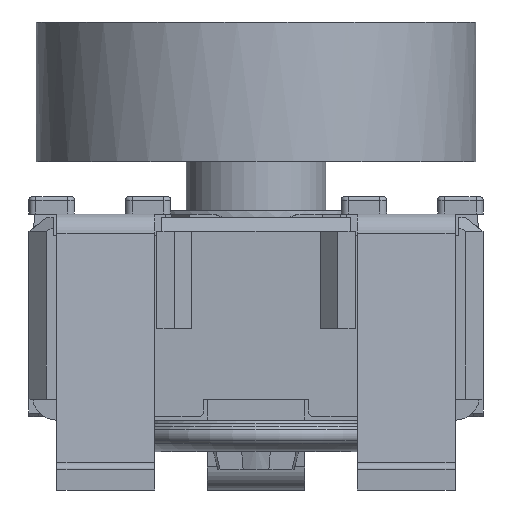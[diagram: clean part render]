
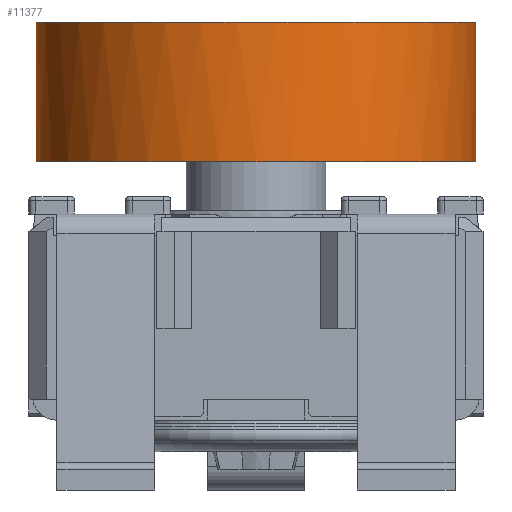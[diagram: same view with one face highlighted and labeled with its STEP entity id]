
A CAD part, front view. The second image highlights one B-rep face of the part: STEP entity #11377.
In plain terms, the highlighted cylindrical face has radius 3.15 mm (diameter 6.3 mm), a partial arc.
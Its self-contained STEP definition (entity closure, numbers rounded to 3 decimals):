
#47=ELLIPSE('',#12343,36.142,3.15);
#48=ELLIPSE('',#12344,36.142,3.15);
#249=CYLINDRICAL_SURFACE('',#12350,3.15);
#710=CIRCLE('',#12280,3.15);
#730=CIRCLE('',#12346,3.15);
#732=CIRCLE('',#12348,3.15);
#733=CIRCLE('',#12351,3.15);
#1320=FACE_OUTER_BOUND('',#1920,.T.);
#1920=EDGE_LOOP('',(#10328,#10329,#10330,#10331,#10332,#10333,#10334,#10335));
#3180=LINE('',#18874,#4437);
#3183=LINE('',#18880,#4440);
#4437=VECTOR('',#15405,10.);
#4440=VECTOR('',#15410,10.);
#5416=VERTEX_POINT('',#18642);
#5417=VERTEX_POINT('',#18643);
#5474=VERTEX_POINT('',#18857);
#5475=VERTEX_POINT('',#18859);
#5476=VERTEX_POINT('',#18863);
#5479=VERTEX_POINT('',#18869);
#5480=VERTEX_POINT('',#18873);
#5482=VERTEX_POINT('',#18879);
#6994=EDGE_CURVE('',#5416,#5417,#710,.T.);
#7091=EDGE_CURVE('',#5474,#5416,#47,.T.);
#7093=EDGE_CURVE('',#5417,#5475,#48,.T.);
#7094=EDGE_CURVE('',#5476,#5474,#730,.T.);
#7098=EDGE_CURVE('',#5475,#5479,#732,.T.);
#7099=EDGE_CURVE('',#5480,#5476,#3180,.T.);
#7102=EDGE_CURVE('',#5482,#5479,#3183,.T.);
#7103=EDGE_CURVE('',#5480,#5482,#733,.T.);
#10328=ORIENTED_EDGE('',*,*,#7094,.T.);
#10329=ORIENTED_EDGE('',*,*,#7091,.T.);
#10330=ORIENTED_EDGE('',*,*,#6994,.T.);
#10331=ORIENTED_EDGE('',*,*,#7093,.T.);
#10332=ORIENTED_EDGE('',*,*,#7098,.T.);
#10333=ORIENTED_EDGE('',*,*,#7102,.F.);
#10334=ORIENTED_EDGE('',*,*,#7103,.F.);
#10335=ORIENTED_EDGE('',*,*,#7099,.T.);
#11377=ADVANCED_FACE('',(#1320),#249,.T.);
#12280=AXIS2_PLACEMENT_3D('',#18645,#15193,#15194);
#12343=AXIS2_PLACEMENT_3D('',#18858,#15388,#15389);
#12344=AXIS2_PLACEMENT_3D('',#18861,#15391,#15392);
#12346=AXIS2_PLACEMENT_3D('',#18864,#15395,#15396);
#12348=AXIS2_PLACEMENT_3D('',#18871,#15401,#15402);
#12350=AXIS2_PLACEMENT_3D('',#18878,#15408,#15409);
#12351=AXIS2_PLACEMENT_3D('',#18881,#15411,#15412);
#15193=DIRECTION('center_axis',(0.,0.,-1.));
#15194=DIRECTION('ref_axis',(0.232,-0.973,0.));
#15388=DIRECTION('center_axis',(0.,-0.996,-0.087));
#15389=DIRECTION('ref_axis',(0.,-0.087,0.996));
#15391=DIRECTION('center_axis',(0.,-0.996,-0.087));
#15392=DIRECTION('ref_axis',(0.,-0.087,0.996));
#15395=DIRECTION('center_axis',(0.,0.,-1.));
#15396=DIRECTION('ref_axis',(0.232,-0.973,0.));
#15401=DIRECTION('center_axis',(0.,0.,-1.));
#15402=DIRECTION('ref_axis',(0.232,-0.973,0.));
#15405=DIRECTION('',(0.,0.,1.));
#15408=DIRECTION('center_axis',(0.,0.,1.));
#15409=DIRECTION('ref_axis',(0.232,-0.973,0.));
#15410=DIRECTION('',(0.,0.,1.));
#15411=DIRECTION('center_axis',(0.,0.,-1.));
#15412=DIRECTION('ref_axis',(0.232,-0.973,0.));
#18642=CARTESIAN_POINT('',(-9.186,5.941,2.));
#18643=CARTESIAN_POINT('',(-13.891,5.941,2.));
#18645=CARTESIAN_POINT('Origin',(-11.538,3.846,2.));
#18857=CARTESIAN_POINT('',(-9.284,6.046,0.8));
#18858=CARTESIAN_POINT('Origin',(-11.538,3.846,25.946));
#18859=CARTESIAN_POINT('',(-13.793,6.046,0.8));
#18861=CARTESIAN_POINT('Origin',(-11.538,3.846,25.946));
#18863=CARTESIAN_POINT('',(-10.809,6.91,0.8));
#18864=CARTESIAN_POINT('Origin',(-11.538,3.846,0.8));
#18869=CARTESIAN_POINT('',(-12.268,6.91,0.8));
#18871=CARTESIAN_POINT('Origin',(-11.538,3.846,0.8));
#18873=CARTESIAN_POINT('',(-10.809,6.91,0.));
#18874=CARTESIAN_POINT('',(-10.809,6.91,0.));
#18878=CARTESIAN_POINT('Origin',(-11.538,3.846,0.));
#18879=CARTESIAN_POINT('',(-12.268,6.91,0.));
#18880=CARTESIAN_POINT('',(-12.268,6.91,0.));
#18881=CARTESIAN_POINT('Origin',(-11.538,3.846,0.));
